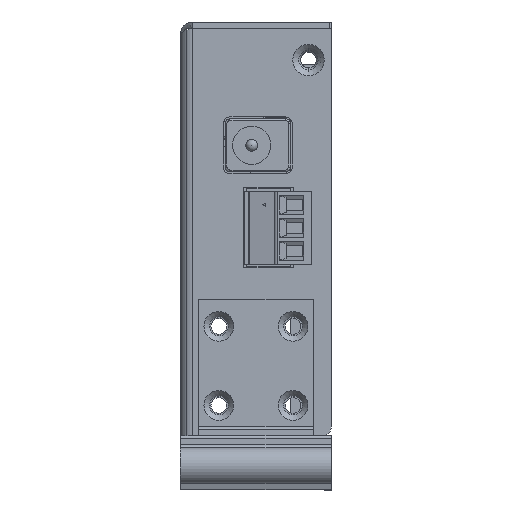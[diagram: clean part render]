
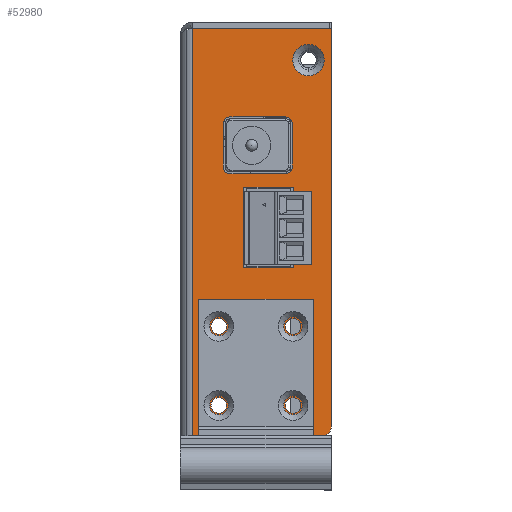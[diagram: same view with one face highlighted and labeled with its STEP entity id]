
A CAD part, left-side view. The second image highlights one B-rep face of the part: STEP entity #52980.
In plain terms, the highlighted planar face has unit normal (-1, 0, 0).
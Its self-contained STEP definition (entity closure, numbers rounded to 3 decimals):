
#611=FACE_BOUND('',#6706,.T.);
#612=FACE_BOUND('',#6707,.T.);
#613=FACE_BOUND('',#6708,.T.);
#614=FACE_BOUND('',#6709,.T.);
#615=FACE_BOUND('',#6710,.T.);
#616=FACE_BOUND('',#6711,.T.);
#617=FACE_BOUND('',#6712,.T.);
#618=FACE_BOUND('',#6713,.T.);
#1441=PLANE('',#56325);
#3710=FACE_OUTER_BOUND('',#6705,.T.);
#6705=EDGE_LOOP('',(#38506,#38507,#38508,#38509,#38510,#38511));
#6706=EDGE_LOOP('',(#38512));
#6707=EDGE_LOOP('',(#38513));
#6708=EDGE_LOOP('',(#38514));
#6709=EDGE_LOOP('',(#38515));
#6710=EDGE_LOOP('',(#38516));
#6711=EDGE_LOOP('',(#38517));
#6712=EDGE_LOOP('',(#38518,#38519,#38520,#38521));
#6713=EDGE_LOOP('',(#38522,#38523,#38524,#38525,#38526,#38527,#38528,#38529));
#10535=LINE('',#77595,#16662);
#10542=LINE('',#77655,#16669);
#10571=LINE('',#77932,#16698);
#10572=LINE('',#77935,#16699);
#10573=LINE('',#77938,#16700);
#10574=LINE('',#77940,#16701);
#10575=LINE('',#77942,#16702);
#10576=LINE('',#77943,#16703);
#10577=LINE('',#77948,#16704);
#10578=LINE('',#77952,#16705);
#10579=LINE('',#77956,#16706);
#10580=LINE('',#77959,#16707);
#16662=VECTOR('',#62126,1000.);
#16669=VECTOR('',#62139,1000.);
#16698=VECTOR('',#62220,1000.);
#16699=VECTOR('',#62223,1000.);
#16700=VECTOR('',#62224,1000.);
#16701=VECTOR('',#62225,1000.);
#16702=VECTOR('',#62226,1000.);
#16703=VECTOR('',#62227,1000.);
#16704=VECTOR('',#62230,1000.);
#16705=VECTOR('',#62233,1000.);
#16706=VECTOR('',#62236,1000.);
#16707=VECTOR('',#62239,1000.);
#22323=CIRCLE('',#56275,1.3);
#22325=CIRCLE('',#56278,1.3);
#22327=CIRCLE('',#56281,1.3);
#22329=CIRCLE('',#56284,1.3);
#22332=CIRCLE('',#56288,2.6);
#22334=CIRCLE('',#56291,2.6);
#22361=CIRCLE('',#56326,1.5);
#22362=CIRCLE('',#56327,0.3);
#22363=CIRCLE('',#56328,1.1);
#22364=CIRCLE('',#56329,1.1);
#22365=CIRCLE('',#56330,1.1);
#22366=CIRCLE('',#56331,1.1);
#24142=VERTEX_POINT('',#77502);
#24144=VERTEX_POINT('',#77508);
#24146=VERTEX_POINT('',#77514);
#24148=VERTEX_POINT('',#77520);
#24151=VERTEX_POINT('',#77528);
#24153=VERTEX_POINT('',#77534);
#24162=VERTEX_POINT('',#77593);
#24163=VERTEX_POINT('',#77594);
#24170=VERTEX_POINT('',#77653);
#24220=VERTEX_POINT('',#77929);
#24221=VERTEX_POINT('',#77931);
#24222=VERTEX_POINT('',#77933);
#24223=VERTEX_POINT('',#77936);
#24224=VERTEX_POINT('',#77937);
#24225=VERTEX_POINT('',#77939);
#24226=VERTEX_POINT('',#77941);
#24227=VERTEX_POINT('',#77944);
#24228=VERTEX_POINT('',#77945);
#24229=VERTEX_POINT('',#77947);
#24230=VERTEX_POINT('',#77949);
#24231=VERTEX_POINT('',#77951);
#24232=VERTEX_POINT('',#77953);
#24233=VERTEX_POINT('',#77955);
#24234=VERTEX_POINT('',#77957);
#29581=EDGE_CURVE('',#24142,#24142,#22323,.T.);
#29584=EDGE_CURVE('',#24144,#24144,#22325,.T.);
#29587=EDGE_CURVE('',#24146,#24146,#22327,.T.);
#29590=EDGE_CURVE('',#24148,#24148,#22329,.T.);
#29595=EDGE_CURVE('',#24151,#24151,#22332,.T.);
#29598=EDGE_CURVE('',#24153,#24153,#22334,.T.);
#29609=EDGE_CURVE('',#24162,#24163,#10535,.T.);
#29619=EDGE_CURVE('',#24170,#24163,#10542,.T.);
#29675=EDGE_CURVE('',#24170,#24220,#22361,.T.);
#29676=EDGE_CURVE('',#24220,#24221,#10571,.T.);
#29677=EDGE_CURVE('',#24221,#24222,#22362,.T.);
#29678=EDGE_CURVE('',#24222,#24162,#10572,.T.);
#29679=EDGE_CURVE('',#24223,#24224,#10573,.T.);
#29680=EDGE_CURVE('',#24224,#24225,#10574,.T.);
#29681=EDGE_CURVE('',#24225,#24226,#10575,.T.);
#29682=EDGE_CURVE('',#24226,#24223,#10576,.T.);
#29683=EDGE_CURVE('',#24227,#24228,#22363,.T.);
#29684=EDGE_CURVE('',#24228,#24229,#10577,.T.);
#29685=EDGE_CURVE('',#24229,#24230,#22364,.T.);
#29686=EDGE_CURVE('',#24230,#24231,#10578,.T.);
#29687=EDGE_CURVE('',#24231,#24232,#22365,.T.);
#29688=EDGE_CURVE('',#24232,#24233,#10579,.T.);
#29689=EDGE_CURVE('',#24233,#24234,#22366,.T.);
#29690=EDGE_CURVE('',#24234,#24227,#10580,.T.);
#38506=ORIENTED_EDGE('',*,*,#29675,.T.);
#38507=ORIENTED_EDGE('',*,*,#29676,.T.);
#38508=ORIENTED_EDGE('',*,*,#29677,.T.);
#38509=ORIENTED_EDGE('',*,*,#29678,.T.);
#38510=ORIENTED_EDGE('',*,*,#29609,.T.);
#38511=ORIENTED_EDGE('',*,*,#29619,.F.);
#38512=ORIENTED_EDGE('',*,*,#29598,.T.);
#38513=ORIENTED_EDGE('',*,*,#29595,.T.);
#38514=ORIENTED_EDGE('',*,*,#29590,.T.);
#38515=ORIENTED_EDGE('',*,*,#29587,.T.);
#38516=ORIENTED_EDGE('',*,*,#29584,.T.);
#38517=ORIENTED_EDGE('',*,*,#29581,.T.);
#38518=ORIENTED_EDGE('',*,*,#29679,.T.);
#38519=ORIENTED_EDGE('',*,*,#29680,.T.);
#38520=ORIENTED_EDGE('',*,*,#29681,.T.);
#38521=ORIENTED_EDGE('',*,*,#29682,.T.);
#38522=ORIENTED_EDGE('',*,*,#29683,.T.);
#38523=ORIENTED_EDGE('',*,*,#29684,.T.);
#38524=ORIENTED_EDGE('',*,*,#29685,.T.);
#38525=ORIENTED_EDGE('',*,*,#29686,.T.);
#38526=ORIENTED_EDGE('',*,*,#29687,.T.);
#38527=ORIENTED_EDGE('',*,*,#29688,.T.);
#38528=ORIENTED_EDGE('',*,*,#29689,.T.);
#38529=ORIENTED_EDGE('',*,*,#29690,.T.);
#52980=ADVANCED_FACE('',(#3710,#611,#612,#613,#614,#615,#616,#617,#618),
#1441,.T.);
#56275=AXIS2_PLACEMENT_3D('',#77503,#62068,#62069);
#56278=AXIS2_PLACEMENT_3D('',#77509,#62075,#62076);
#56281=AXIS2_PLACEMENT_3D('',#77515,#62082,#62083);
#56284=AXIS2_PLACEMENT_3D('',#77521,#62089,#62090);
#56288=AXIS2_PLACEMENT_3D('',#77530,#62099,#62100);
#56291=AXIS2_PLACEMENT_3D('',#77536,#62106,#62107);
#56325=AXIS2_PLACEMENT_3D('',#77928,#62216,#62217);
#56326=AXIS2_PLACEMENT_3D('',#77930,#62218,#62219);
#56327=AXIS2_PLACEMENT_3D('',#77934,#62221,#62222);
#56328=AXIS2_PLACEMENT_3D('',#77946,#62228,#62229);
#56329=AXIS2_PLACEMENT_3D('',#77950,#62231,#62232);
#56330=AXIS2_PLACEMENT_3D('',#77954,#62234,#62235);
#56331=AXIS2_PLACEMENT_3D('',#77958,#62237,#62238);
#62068=DIRECTION('center_axis',(1.,0.,0.));
#62069=DIRECTION('ref_axis',(0.,1.,0.));
#62075=DIRECTION('center_axis',(1.,0.,0.));
#62076=DIRECTION('ref_axis',(0.,1.,0.));
#62082=DIRECTION('center_axis',(1.,0.,0.));
#62083=DIRECTION('ref_axis',(0.,1.,0.));
#62089=DIRECTION('center_axis',(1.,0.,0.));
#62090=DIRECTION('ref_axis',(0.,1.,0.));
#62099=DIRECTION('center_axis',(1.,0.,0.));
#62100=DIRECTION('ref_axis',(0.,0.,1.));
#62106=DIRECTION('center_axis',(1.,0.,0.));
#62107=DIRECTION('ref_axis',(0.,0.,1.));
#62126=DIRECTION('',(0.,0.,1.));
#62139=DIRECTION('',(0.,-1.,0.));
#62216=DIRECTION('center_axis',(-1.,0.,0.));
#62217=DIRECTION('ref_axis',(0.,0.,1.));
#62218=DIRECTION('center_axis',(-1.,0.,0.));
#62219=DIRECTION('ref_axis',(0.,0.,1.));
#62220=DIRECTION('',(0.,0.,-1.));
#62221=DIRECTION('center_axis',(-1.,0.,0.));
#62222=DIRECTION('ref_axis',(0.,0.,-1.));
#62223=DIRECTION('',(0.,-1.,0.));
#62224=DIRECTION('',(0.,0.,-1.));
#62225=DIRECTION('',(0.,1.,0.));
#62226=DIRECTION('',(0.,0.,1.));
#62227=DIRECTION('',(0.,-1.,0.));
#62228=DIRECTION('center_axis',(1.,0.,0.));
#62229=DIRECTION('ref_axis',(0.,0.,1.));
#62230=DIRECTION('',(0.,1.,0.));
#62231=DIRECTION('center_axis',(1.,0.,0.));
#62232=DIRECTION('ref_axis',(0.,0.,1.));
#62233=DIRECTION('',(0.,0.,1.));
#62234=DIRECTION('center_axis',(1.,0.,0.));
#62235=DIRECTION('ref_axis',(0.,0.,1.));
#62236=DIRECTION('',(0.,-1.,0.));
#62237=DIRECTION('center_axis',(1.,0.,0.));
#62238=DIRECTION('ref_axis',(0.,0.,1.));
#62239=DIRECTION('',(0.,0.,-1.));
#77502=CARTESIAN_POINT('',(-69.4,-19.95,28.6));
#77503=CARTESIAN_POINT('Origin',(-69.4,-18.65,28.6));
#77508=CARTESIAN_POINT('',(-69.4,-19.95,15.5));
#77509=CARTESIAN_POINT('Origin',(-69.4,-18.65,15.5));
#77514=CARTESIAN_POINT('',(-69.4,-7.65,15.5));
#77515=CARTESIAN_POINT('Origin',(-69.4,-6.35,15.5));
#77520=CARTESIAN_POINT('',(-69.4,-7.65,28.6));
#77521=CARTESIAN_POINT('Origin',(-69.4,-6.35,28.6));
#77528=CARTESIAN_POINT('',(-69.4,-3.8,-31.2));
#77530=CARTESIAN_POINT('Origin',(-69.4,-3.8,-28.6));
#77534=CARTESIAN_POINT('',(-69.4,-12.5,26.2));
#77536=CARTESIAN_POINT('Origin',(-69.4,-12.5,28.8));
#77593=CARTESIAN_POINT('',(-69.4,-23.,-33.9));
#77594=CARTESIAN_POINT('',(-69.4,-23.,33.6));
#77595=CARTESIAN_POINT('',(-69.4,-23.,-0.15));
#77653=CARTESIAN_POINT('',(-69.4,-1.5,33.6));
#77655=CARTESIAN_POINT('',(-69.4,-13.25,33.6));
#77928=CARTESIAN_POINT('Origin',(-69.4,-23.46,-35.25));
#77929=CARTESIAN_POINT('',(-69.4,0.,32.1));
#77930=CARTESIAN_POINT('Origin',(-69.4,-1.5,32.1));
#77931=CARTESIAN_POINT('',(-69.4,0.,-33.6));
#77932=CARTESIAN_POINT('',(-69.4,0.,-0.15));
#77933=CARTESIAN_POINT('',(-69.4,-0.3,-33.9));
#77934=CARTESIAN_POINT('Origin',(-69.4,-0.3,-33.6));
#77935=CARTESIAN_POINT('',(-69.4,-11.5,-33.9));
#77936=CARTESIAN_POINT('',(-69.4,-14.5,5.84));
#77937=CARTESIAN_POINT('',(-69.4,-14.5,-7.56));
#77938=CARTESIAN_POINT('',(-69.4,-14.5,-0.15));
#77939=CARTESIAN_POINT('',(-69.4,-6.3,-7.56));
#77940=CARTESIAN_POINT('',(-69.4,-11.5,-7.56));
#77941=CARTESIAN_POINT('',(-69.4,-6.3,5.84));
#77942=CARTESIAN_POINT('',(-69.4,-6.3,-0.15));
#77943=CARTESIAN_POINT('',(-69.4,-11.5,5.84));
#77944=CARTESIAN_POINT('',(-69.4,-17.9,-18.08));
#77945=CARTESIAN_POINT('',(-69.4,-16.8,-19.18));
#77946=CARTESIAN_POINT('Origin',(-69.4,-16.8,-18.08));
#77947=CARTESIAN_POINT('',(-69.4,-7.6,-19.18));
#77948=CARTESIAN_POINT('',(-69.4,-11.5,-19.18));
#77949=CARTESIAN_POINT('',(-69.4,-6.5,-18.08));
#77950=CARTESIAN_POINT('Origin',(-69.4,-7.6,-18.08));
#77951=CARTESIAN_POINT('',(-69.4,-6.5,-10.88));
#77952=CARTESIAN_POINT('',(-69.4,-6.5,-0.15));
#77953=CARTESIAN_POINT('',(-69.4,-7.6,-9.78));
#77954=CARTESIAN_POINT('Origin',(-69.4,-7.6,-10.88));
#77955=CARTESIAN_POINT('',(-69.4,-16.8,-9.78));
#77956=CARTESIAN_POINT('',(-69.4,-11.5,-9.78));
#77957=CARTESIAN_POINT('',(-69.4,-17.9,-10.88));
#77958=CARTESIAN_POINT('Origin',(-69.4,-16.8,-10.88));
#77959=CARTESIAN_POINT('',(-69.4,-17.9,-0.15));
